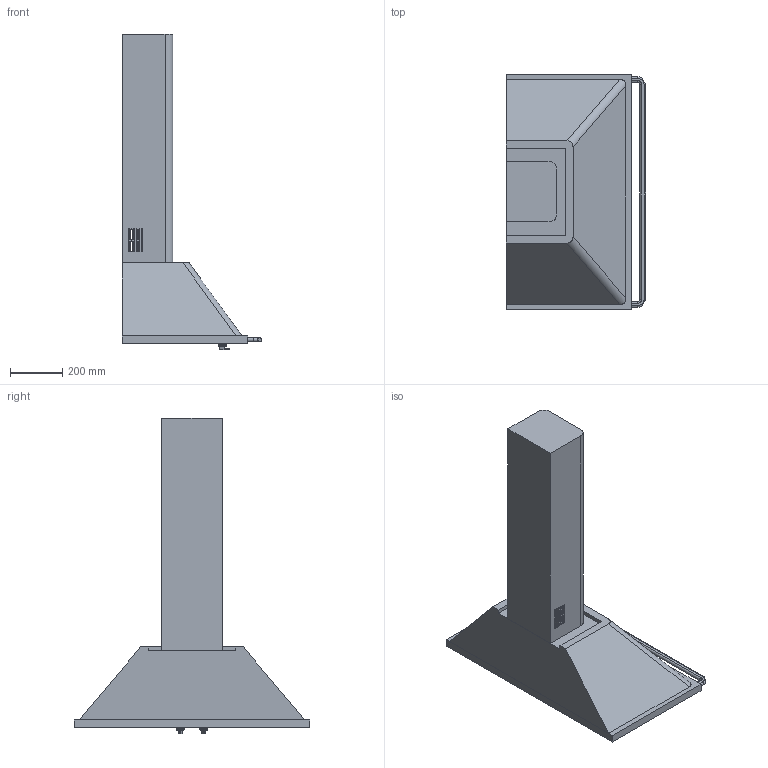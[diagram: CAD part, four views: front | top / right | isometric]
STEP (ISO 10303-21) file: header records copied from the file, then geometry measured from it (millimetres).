
FILE_DESCRIPTION((''),'1');
FILE_NAME('C:/Users/linop/Desktop/KT90BE.stp','2018-02-16T15:46:16',(''),(''),'Spatial Interop R20 SP1','Kubotek KeyCreator V9.0.3 (16864)',' ');
FILE_SCHEMA(('CONFIG_CONTROL_DESIGN'));
Length unit declared in the file: millimetre
Products named in the file (14): 1; 2; 3; 4; 5; 6; 7; 8; 9; 10; 11; 12; 13; 14
Bounding box: 534.5 x 899 x 1208.36 mm (x, y, z)
Volume: 112106588.6 mm3; surface area: 3976874.5 mm2
Topology: 14 solids, 14 shells, 503 faces, 1249 edges, 790 vertices
Faces by surface type: plane 343, cylinder 130, bspline 24, torus 4, cone 2
Full cylindrical faces by diameter (mm): 18 x2, 28 x2, 29.371 x2, 43 x4, 44 x4, 57 x2, 65 x2
Entity records: 17462 total; most frequent: CARTESIAN_POINT 5317, ORIENTED_EDGE 2418, DIRECTION 2195, EDGE_CURVE 1209, LINE 875, VECTOR 875, VERTEX_POINT 789, AXIS2_PLACEMENT_3D 660
